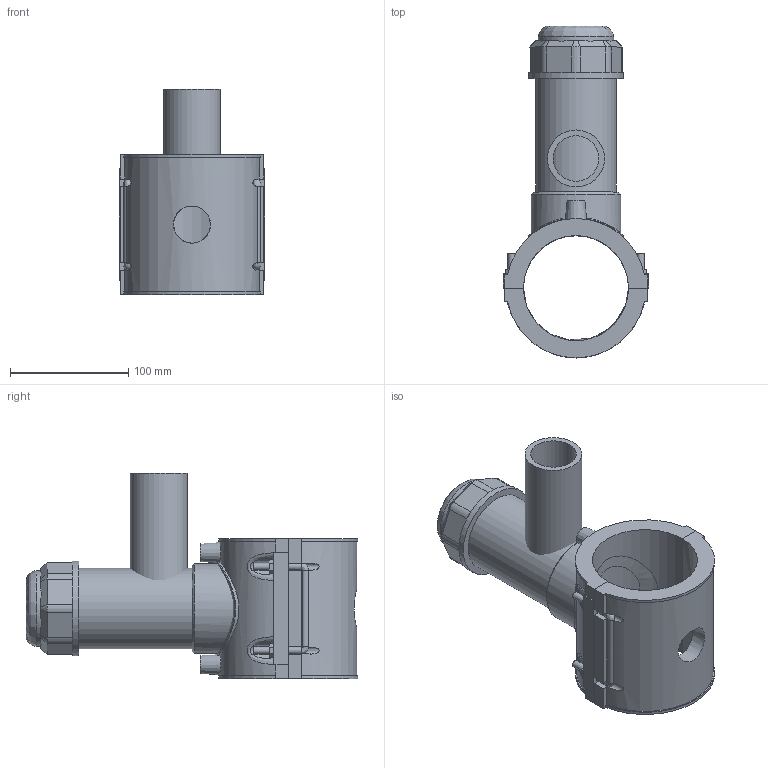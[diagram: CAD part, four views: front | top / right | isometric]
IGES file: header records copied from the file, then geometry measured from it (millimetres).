
Global section: file name: 5963BBP3030015.ipt; native system: Autodesk Inventor 2019; preprocessor: unknown; author: KIM; date: 20210830.101522; units: inch
Bounding box: 122.9 x 280.2 x 173.1 mm (x, y, z)
Volume: 984393.1 mm3; surface area: 210728.5 mm2
Topology: 3 solids, 3 shells, 204 faces, 526 edges, 343 vertices
Faces by surface type: plane 125, cylinder 37, revolution 21, cone 15, bspline 6
Full cylindrical faces by diameter (mm): 4 x2, 6 x8, 48.1 x1, 63.864 x1, 67.856 x1, 75.839 x1, 79.83 x1
